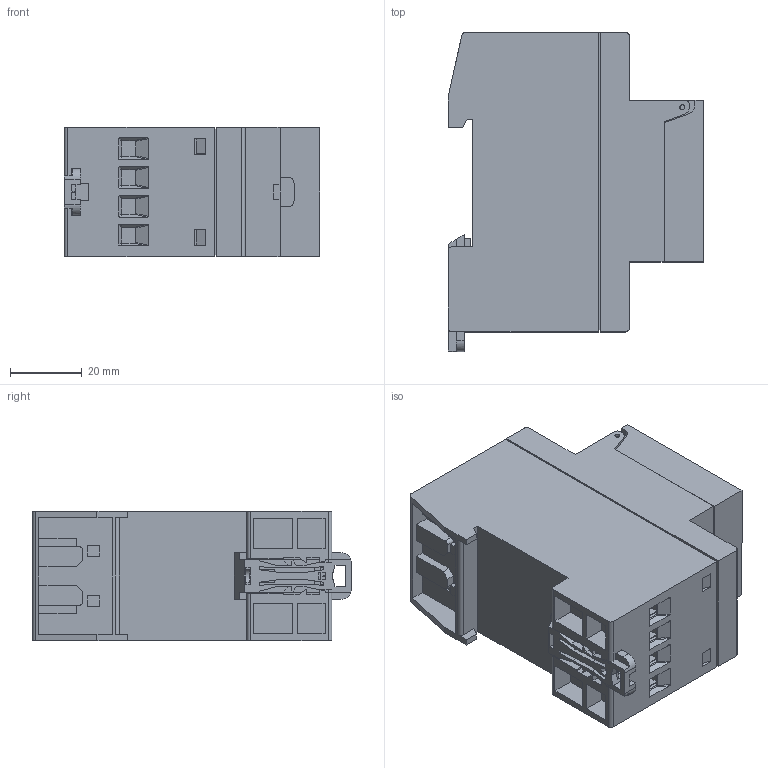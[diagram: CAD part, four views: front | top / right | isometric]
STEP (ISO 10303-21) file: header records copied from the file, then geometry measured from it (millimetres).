
FILE_DESCRIPTION (( 'STEP AP214' ), '1' );
FILE_NAME ('MA_-D16-002-A230__upr.step', '2014-09-05T08:56:35', ( '' ), ( '' ), 'SwSTEP 2.0', 'SolidWorks 2011', '' );
FILE_SCHEMA (( 'AUTOMOTIVE_DESIGN' ));
Length unit declared in the file: millimetre
Products named in the file (1): MA_-D16-002-A230__upr
Bounding box: 71.3 x 89 x 36 mm (x, y, z)
Volume: 151231.2 mm3; surface area: 34538.9 mm2
Topology: 3 solids, 3 shells, 1271 faces, 3366 edges, 2134 vertices
Faces by surface type: plane 872, cylinder 255, bspline 64, torus 48, cone 16, sphere 16
Entity records: 53583 total; most frequent: CARTESIAN_POINT 8852, ORIENTED_EDGE 6668, DIRECTION 6030, EDGE_CURVE 3334, VECTOR 2310, LINE 2310, VERTEX_POINT 2134, AXIS2_PLACEMENT_3D 1860
